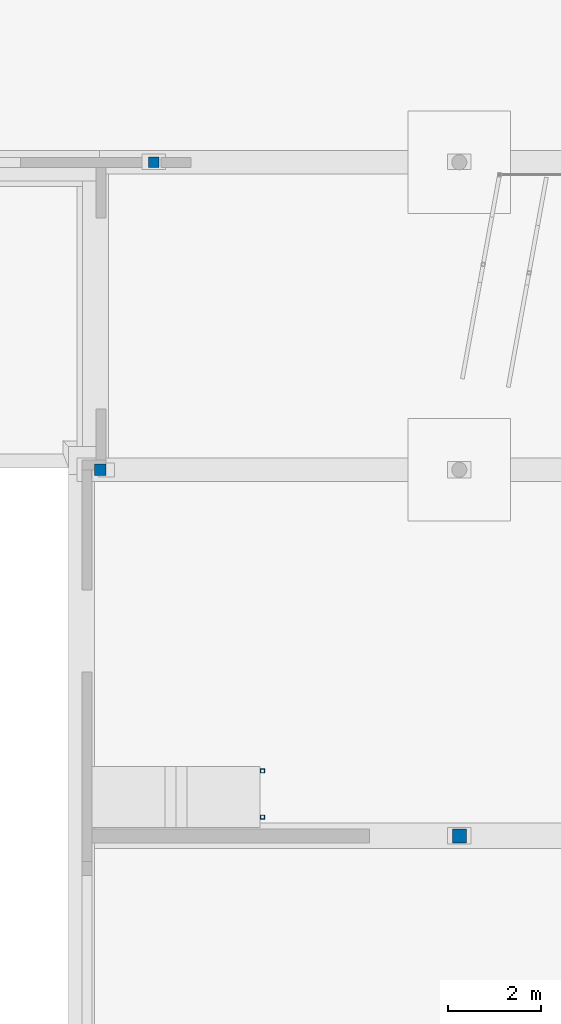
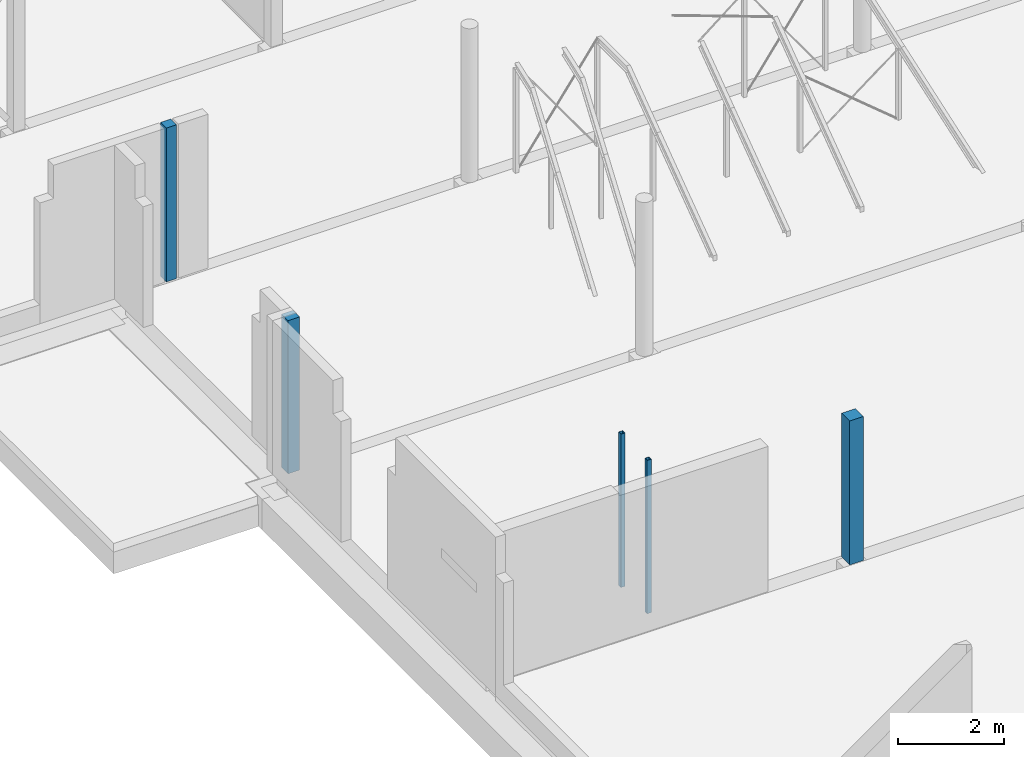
# One storey, part 3 of 17: 5 columns.
"""IFC2X3 building model written with IfcOpenShell, lengths in millimetres."""

from ifc_helpers import new_model, entity, si_unit, converted_unit, derived_unit, direction, frame, frame_2d, origin, origin_2d_with_axis, place, context, subcontext, project, spatial, polyline, rectangle, outline, extrude, source, transform, mapped, material, material_list, type_object, type_shapes, element, save


model = new_model("IFC2X3")

# Units and contexts
model_context = context("Model", 3, precision=0.01, world=origin(), true_north=direction((6.123031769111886e-17, 1.0)))
body_context = subcontext(model_context, "Body", "Model", "MODEL_VIEW")
ifc_project = project(units=[si_unit("LENGTHUNIT", "METRE", prefix="MILLI"), si_unit("AREAUNIT", "SQUARE_METRE", prefix="MILLI"), si_unit("VOLUMEUNIT", "CUBIC_METRE"), converted_unit("PLANEANGLEUNIT", "DEGREE", entity("IfcPlaneAngleMeasure", 0.017453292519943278), si_unit("PLANEANGLEUNIT", "RADIAN"), dimensions=[0, 0, 0, 0, 0, 0, 0]), si_unit("MASSUNIT", "GRAM", prefix="KILO"), derived_unit("MASSDENSITYUNIT", [(si_unit("MASSUNIT", "GRAM", prefix="KILO"), 1), (si_unit("LENGTHUNIT", "METRE"), -3)]), derived_unit("IONCONCENTRATIONUNIT", [(si_unit("MASSUNIT", "GRAM", prefix="KILO"), 1), (si_unit("LENGTHUNIT", "METRE"), -3)]), derived_unit("MOMENTOFINERTIAUNIT", [(si_unit("LENGTHUNIT", "METRE"), 4)]), si_unit("TIMEUNIT", "SECOND"), si_unit("FREQUENCYUNIT", "HERTZ"), si_unit("THERMODYNAMICTEMPERATUREUNIT", "DEGREE_CELSIUS"), derived_unit("THERMALTRANSMITTANCEUNIT", [(si_unit("MASSUNIT", "GRAM", prefix="KILO"), 1), (si_unit("THERMODYNAMICTEMPERATUREUNIT", "KELVIN"), -1), (si_unit("TIMEUNIT", "SECOND"), -3)]), derived_unit("THERMALCONDUCTANCEUNIT", [(si_unit("MASSUNIT", "GRAM", prefix="KILO"), 1), (si_unit("THERMODYNAMICTEMPERATUREUNIT", "KELVIN"), -1), (si_unit("TIMEUNIT", "SECOND"), -3), (si_unit("LENGTHUNIT", "METRE"), 1)]), derived_unit("VOLUMETRICFLOWRATEUNIT", [(si_unit("LENGTHUNIT", "METRE", prefix="DECI"), 3), (si_unit("TIMEUNIT", "SECOND"), -1)]), derived_unit("MASSFLOWRATEUNIT", [(si_unit("MASSUNIT", "GRAM", prefix="KILO"), 1), (si_unit("TIMEUNIT", "SECOND"), -1)]), derived_unit("ROTATIONALFREQUENCYUNIT", [(si_unit("TIMEUNIT", "SECOND"), -1)]), si_unit("ELECTRICCURRENTUNIT", "AMPERE"), si_unit("ELECTRICVOLTAGEUNIT", "VOLT"), si_unit("POWERUNIT", "WATT"), si_unit("FORCEUNIT", "NEWTON", prefix="KILO"), si_unit("ILLUMINANCEUNIT", "LUX"), si_unit("LUMINOUSFLUXUNIT", "LUMEN"), si_unit("LUMINOUSINTENSITYUNIT", "CANDELA"), si_unit("ENERGYUNIT", "JOULE"), derived_unit("USERDEFINED", [(si_unit("MASSUNIT", "GRAM", prefix="KILO"), -1), (si_unit("LENGTHUNIT", "METRE"), -2), (si_unit("TIMEUNIT", "SECOND"), 3), (si_unit("LUMINOUSFLUXUNIT", "LUMEN"), 1)]), derived_unit("USERDEFINED", [(si_unit("MASSUNIT", "GRAM", prefix="KILO"), 1), (si_unit("TIMEUNIT", "SECOND"), -3), (si_unit("LENGTHUNIT", "METRE"), 3), (si_unit("ELECTRICCURRENTUNIT", "AMPERE"), -2)]), derived_unit("SOUNDPOWERUNIT", [(si_unit("MASSUNIT", "GRAM", prefix="KILO"), 1), (si_unit("TIMEUNIT", "SECOND"), -3), (si_unit("LENGTHUNIT", "METRE"), 2)]), derived_unit("SOUNDPRESSUREUNIT", [(si_unit("MASSUNIT", "GRAM", prefix="KILO"), 1), (si_unit("LENGTHUNIT", "METRE"), -1), (si_unit("TIMEUNIT", "SECOND"), -2)]), derived_unit("LINEARVELOCITYUNIT", [(si_unit("LENGTHUNIT", "METRE"), 1), (si_unit("TIMEUNIT", "SECOND"), -1)]), si_unit("PRESSUREUNIT", "PASCAL"), derived_unit("USERDEFINED", [(si_unit("MASSUNIT", "GRAM", prefix="KILO"), 1), (si_unit("LENGTHUNIT", "METRE"), -2), (si_unit("TIMEUNIT", "SECOND"), -2)]), derived_unit("LINEARFORCEUNIT", [(si_unit("MASSUNIT", "GRAM", prefix="KILO"), 1), (si_unit("TIMEUNIT", "SECOND"), -2)]), derived_unit("PLANARFORCEUNIT", [(si_unit("MASSUNIT", "GRAM", prefix="KILO"), 1), (si_unit("LENGTHUNIT", "METRE"), -1), (si_unit("TIMEUNIT", "SECOND"), -2)]), derived_unit("SPECIFICHEATCAPACITYUNIT", [(si_unit("THERMODYNAMICTEMPERATUREUNIT", "KELVIN"), -1), (si_unit("LENGTHUNIT", "METRE"), 2), (si_unit("TIMEUNIT", "SECOND"), -2)]), derived_unit("HEATFLUXDENSITYUNIT", [(si_unit("MASSUNIT", "GRAM", prefix="KILO"), 1), (si_unit("TIMEUNIT", "SECOND"), -3)]), derived_unit("HEATINGVALUEUNIT", [(si_unit("LENGTHUNIT", "METRE"), 2), (si_unit("TIMEUNIT", "SECOND"), -2)]), derived_unit("VAPORPERMEABILITYUNIT", [(si_unit("LENGTHUNIT", "METRE"), -1), (si_unit("TIMEUNIT", "SECOND"), 1)]), derived_unit("DYNAMICVISCOSITYUNIT", [(si_unit("MASSUNIT", "GRAM", prefix="KILO"), 1), (si_unit("TIMEUNIT", "SECOND"), -1), (si_unit("LENGTHUNIT", "METRE"), -1)]), derived_unit("THERMALEXPANSIONCOEFFICIENTUNIT", [(si_unit("THERMODYNAMICTEMPERATUREUNIT", "KELVIN"), -1)]), derived_unit("MODULUSOFELASTICITYUNIT", [(si_unit("MASSUNIT", "GRAM", prefix="KILO"), 1), (si_unit("LENGTHUNIT", "METRE"), -1), (si_unit("TIMEUNIT", "SECOND"), -2)]), derived_unit("ISOTHERMALMOISTURECAPACITYUNIT", [(si_unit("MASSUNIT", "GRAM", prefix="KILO"), -1), (si_unit("LENGTHUNIT", "METRE"), 3)]), derived_unit("MOISTUREDIFFUSIVITYUNIT", [(si_unit("TIMEUNIT", "SECOND"), -1), (si_unit("LENGTHUNIT", "METRE"), 2)]), derived_unit("MASSPERLENGTHUNIT", [(si_unit("MASSUNIT", "GRAM", prefix="KILO"), 1), (si_unit("LENGTHUNIT", "METRE"), -1)]), derived_unit("THERMALRESISTANCEUNIT", [(si_unit("MASSUNIT", "GRAM", prefix="KILO"), -1), (si_unit("TIMEUNIT", "SECOND"), 3), (si_unit("THERMODYNAMICTEMPERATUREUNIT", "KELVIN"), 1)]), derived_unit("ACCELERATIONUNIT", [(si_unit("LENGTHUNIT", "METRE"), 1), (si_unit("TIMEUNIT", "SECOND"), -2)]), derived_unit("ANGULARVELOCITYUNIT", [(si_unit("TIMEUNIT", "SECOND"), -1), (si_unit("PLANEANGLEUNIT", "RADIAN"), 1)]), derived_unit("LINEARSTIFFNESSUNIT", [(si_unit("MASSUNIT", "GRAM", prefix="KILO"), 1), (si_unit("TIMEUNIT", "SECOND"), -2)]), derived_unit("WARPINGCONSTANTUNIT", [(si_unit("LENGTHUNIT", "METRE"), 6)]), derived_unit("LINEARMOMENTUNIT", [(si_unit("MASSUNIT", "GRAM", prefix="KILO"), 1), (si_unit("LENGTHUNIT", "METRE"), 1), (si_unit("TIMEUNIT", "SECOND"), -2)]), derived_unit("TORQUEUNIT", [(si_unit("MASSUNIT", "GRAM", prefix="KILO"), 1), (si_unit("LENGTHUNIT", "METRE"), 2), (si_unit("TIMEUNIT", "SECOND"), -2)])], contexts=[model_context])

# Site, building, storey
site_placement = place(None, origin())
site = spatial("IfcSite", under=ifc_project, at=site_placement, Name="Default", CompositionType="ELEMENT")
building_placement = place(site_placement, origin())
building = spatial("IfcBuilding", under=site, at=building_placement, CompositionType="ELEMENT")
storey_placement = place(building_placement, frame((0.0, 0.0, -70.0)))
storey = spatial("IfcBuildingStorey", under=building, at=storey_placement, Name="F1 begg (bk ruwe vloer)", CompositionType="ELEMENT", Elevation=-69.99999999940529)

# Columns
ifc_material_1 = material(Name="Concrete - Cast-in-Place - C30/37")
ifc_material_2 = material(Name="Metal - Steel - S275 J0H (standaard-kokers/buizen)")
ifc_material_list = material_list([ifc_material_1, ifc_material_2])
column_type_1 = type_object("IfcColumnType", Name="btk_staal - Koker + beton:K300x300x8.0", PredefinedType="COLUMN", material=ifc_material_list)
shared_shape_1 = source(origin(), body_context, "Body", "SweptSolid", [
    extrude(rectangle(XDim=284.0000000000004, YDim=284.0000000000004, at=origin_2d_with_axis()), frame((14699.863108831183, 17494.60501307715, -80.0), z_axis=(0.0, 0.0, 1.0), x_axis=(-1.0, 0.0, 0.0)), (0.0, 0.0, 1.0), 3312.4999999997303),
    extrude(outline(polyline([(-150.0, -150.0), (150.0, -150.0), (150.0, 150.0), (-150.0, 150.0), (-150.0, -150.0)]), holes=[polyline([(-142.0, -142.0), (-142.0, 142.0), (142.0, 142.0), (142.0, -142.0), (-142.0, -142.0)])]), frame((14699.863108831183, 17494.60501307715, -80.0), z_axis=(0.0, 0.0, 1.0), x_axis=(-1.0, 0.0, 0.0)), (0.0, 0.0, 1.0), 3312.4999999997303),
])
type_shapes(column_type_1, [shared_shape_1])
column_1_placement = place(storey_placement, frame((0.0, 0.0, 70.0)))
element("IfcColumn", 1, at=column_1_placement, inside=storey, type_object=column_type_1, material=ifc_material_list, Name="btk_staal - Koker + beton:K300x300x8.0", ObjectType="btk_staal - Koker + beton:K300x300x8.0", context=body_context, shape_type="MappedRepresentation", body=[
    mapped(shared_shape_1, transform((0.0, 0.0, 0.0), scale=1.0)),
])
column_type_2 = type_object("IfcColumnType", Name="btk_staal - Koker + beton:K250x250x8.0", PredefinedType="COLUMN", material=ifc_material_list)
shared_shape_2 = source(origin(), body_context, "Body", "SweptSolid", [
    extrude(rectangle(XDim=233.99999999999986, YDim=233.99999999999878, at=frame_2d((-5.400124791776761e-13, 0.0), x_axis=(1.0, 0.0))), frame((7000.024359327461, 25344.605013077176, -70.0), z_axis=(0.0, 0.0, 1.0), x_axis=(-1.0, 0.0, 0.0)), (0.0, 0.0, 1.0), 3524.9999999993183),
    extrude(outline(polyline([(-125.0, -125.0), (125.0, -125.0), (125.0, 125.0), (-125.0, 125.0), (-125.0, -125.0)]), holes=[polyline([(-117.0, -117.0), (-117.0, 117.0), (117.0, 117.0), (117.0, -117.0), (-117.0, -117.0)])]), frame((7000.024359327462, 25344.605013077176, -70.0), z_axis=(0.0, 0.0, 1.0), x_axis=(-1.0, 0.0, 0.0)), (0.0, 0.0, 1.0), 3524.9999999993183),
])
type_shapes(column_type_2, [shared_shape_2])
column_2_placement = place(storey_placement, frame((0.0, 0.0, 70.0)))
element("IfcColumn", 2, at=column_2_placement, inside=storey, type_object=column_type_2, material=ifc_material_list, Name="btk_staal - Koker + beton:K250x250x8.0", ObjectType="btk_staal - Koker + beton:K250x250x8.0", context=body_context, shape_type="MappedRepresentation", body=[
    mapped(shared_shape_2, transform((0.0, 0.0, 0.0), scale=1.0)),
])
column_type_3 = type_object("IfcColumnType", Name="btk_staal - Koker + beton:K220x220x8", PredefinedType="COLUMN", material=ifc_material_list)
shared_shape_3 = source(origin(), body_context, "Body", "SweptSolid", [
    extrude(rectangle(XDim=204.00000000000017, YDim=204.00000000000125, at=frame_2d((-5.471179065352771e-13, 2.1671553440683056e-12), x_axis=(1.0, 0.0))), frame((8150.556323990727, 31937.573165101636, -70.0), z_axis=(0.0, 0.0, 1.0), x_axis=(-1.0, 0.0, 0.0)), (0.0, 0.0, 1.0), 3539.9999999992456),
    extrude(outline(polyline([(-110.0, -110.0), (110.0, -110.0), (110.0, 110.0), (-110.0, 110.0), (-110.0, -110.0)]), holes=[polyline([(-102.0, -102.0), (-102.0, 102.0), (102.0, 102.0), (102.0, -102.0), (-102.0, -102.0)])]), frame((8150.556323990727, 31937.573165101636, -70.0), z_axis=(0.0, 0.0, 1.0), x_axis=(-1.0, 0.0, 0.0)), (0.0, 0.0, 1.0), 3539.9999999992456),
])
type_shapes(column_type_3, [shared_shape_3])
column_3_placement = place(storey_placement, frame((0.0, 0.0, 70.0)))
element("IfcColumn", 3, at=column_3_placement, inside=storey, type_object=column_type_3, material=ifc_material_list, Name="btk_staal - Koker + beton:K220x220x8", ObjectType="btk_staal - Koker + beton:K220x220x8", context=body_context, shape_type="MappedRepresentation", body=[
    mapped(shared_shape_3, transform((0.0, 0.0, 0.0), scale=1.0)),
])
column_type_4 = type_object("IfcColumnType", Name="btk_staal - Koker:K90x90x8", PredefinedType="COLUMN", material=ifc_material_2)
shared_shape_4 = source(origin(), body_context, "Body", "SweptSolid", [
    extrude(outline(polyline([(-45.0, -45.0), (45.0, -45.0), (45.0, 45.0), (-45.0, 45.0), (-45.0, -45.0)]), holes=[polyline([(-37.0, -37.0), (-37.0, 37.0), (37.0, 37.0), (37.0, -37.0), (-37.0, -37.0)])]), frame((10479.938924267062, 18889.749793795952, -70.0), z_axis=(0.0, 0.0, 1.0), x_axis=(-1.0, 0.0, 0.0)), (0.0, 0.0, 1.0), 3529.999999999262),
])
type_shapes(column_type_4, [shared_shape_4])
column_4_placement = place(storey_placement, frame((0.0, 0.0, 70.0)))
element("IfcColumn", 4, at=column_4_placement, inside=storey, type_object=column_type_4, material=ifc_material_2, Name="btk_staal - Koker:K90x90x8", ObjectType="btk_staal - Koker:K90x90x8", context=body_context, shape_type="MappedRepresentation", body=[
    mapped(shared_shape_4, transform((0.0, 0.0, 0.0), scale=1.0)),
])
column_type_5 = type_object("IfcColumnType", Name="btk_staal - Koker:K90x90x8", PredefinedType="COLUMN", material=ifc_material_2)
shared_shape_5 = source(origin(), body_context, "Body", "SweptSolid", [
    extrude(outline(polyline([(-45.0, -45.0), (45.0, -45.0), (45.0, 45.0), (-45.0, 45.0), (-45.0, -45.0)]), holes=[polyline([(-37.0, -37.0), (-37.0, 37.0), (37.0, 37.0), (37.0, -37.0), (-37.0, -37.0)])]), frame((10479.938924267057, 17894.605013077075, -70.0), z_axis=(0.0, 0.0, 1.0), x_axis=(-1.0, 0.0, 0.0)), (0.0, 0.0, 1.0), 3529.999999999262),
])
type_shapes(column_type_5, [shared_shape_5])
column_5_placement = place(storey_placement, frame((0.0, 0.0, 70.0)))
element("IfcColumn", 5, at=column_5_placement, inside=storey, type_object=column_type_5, material=ifc_material_2, Name="btk_staal - Koker:K90x90x8", ObjectType="btk_staal - Koker:K90x90x8", context=body_context, shape_type="MappedRepresentation", body=[
    mapped(shared_shape_5, transform((0.0, 0.0, 0.0), scale=1.0)),
])

save(model, "model.ifc")
